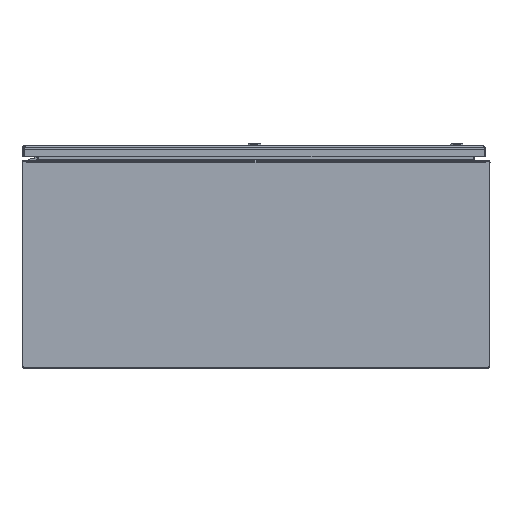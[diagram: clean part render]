
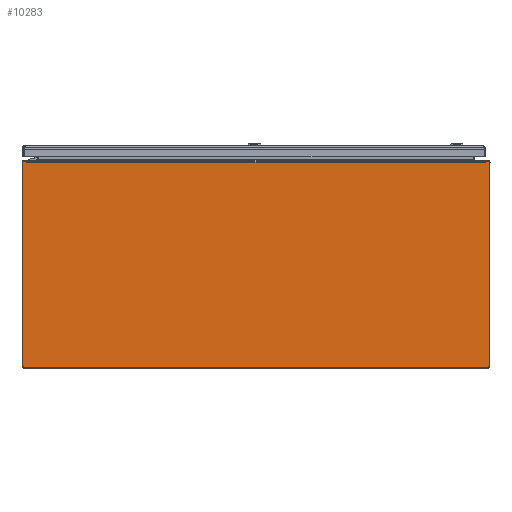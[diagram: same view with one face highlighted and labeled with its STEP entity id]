
A CAD part, front view. The second image highlights one B-rep face of the part: STEP entity #10283.
In plain terms, the highlighted planar face has unit normal (0, -1, 0).
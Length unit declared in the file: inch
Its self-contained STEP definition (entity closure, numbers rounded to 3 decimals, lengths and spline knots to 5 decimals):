
#9074=CARTESIAN_POINT('',(-17.915,0.,7.934));
#9075=DIRECTION('',(0.,-1.,0.));
#9076=DIRECTION('',(0.,0.,1.));
#9077=AXIS2_PLACEMENT_3D('',#9074,#9075,#9076);
#9082=DIRECTION('',(1.,0.,0.));
#9083=VECTOR('',#9082,0.2939);
#9084=CARTESIAN_POINT('',(-17.915,0.,7.994));
#9085=LINE('',#9084,#9083);
#9089=DIRECTION('',(1.,0.,0.));
#9090=VECTOR('',#9089,0.2939);
#9091=CARTESIAN_POINT('',(17.6211,0.,7.994));
#9092=LINE('',#9091,#9090);
#9096=CARTESIAN_POINT('',(17.915,0.,7.934));
#9097=DIRECTION('',(0.,-1.,0.));
#9098=DIRECTION('',(1.,0.,0.));
#9099=AXIS2_PLACEMENT_3D('',#9096,#9097,#9098);
#9104=DIRECTION('',(0.,0.,-1.));
#9105=VECTOR('',#9104,15.765);
#9106=CARTESIAN_POINT('',(17.975,0.,7.934));
#9107=LINE('',#9106,#9105);
#9111=CARTESIAN_POINT('',(17.85,0.,-7.831));
#9112=DIRECTION('',(0.,-1.,0.));
#9113=DIRECTION('',(0.,0.,-1.));
#9114=AXIS2_PLACEMENT_3D('',#9111,#9112,#9113);
#9119=DIRECTION('',(-1.,0.,0.));
#9120=VECTOR('',#9119,35.7);
#9121=CARTESIAN_POINT('',(17.85,0.,-7.956));
#9122=LINE('',#9121,#9120);
#9126=CARTESIAN_POINT('',(-17.85,0.,-7.831));
#9127=DIRECTION('',(0.,-1.,0.));
#9128=DIRECTION('',(-1.,0.,0.));
#9129=AXIS2_PLACEMENT_3D('',#9126,#9127,#9128);
#9134=DIRECTION('',(0.,0.,-1.));
#9135=VECTOR('',#9134,15.765);
#9136=CARTESIAN_POINT('',(-17.975,0.,7.934));
#9137=LINE('',#9136,#9135);
#9204=DIRECTION('',(0.,0.,-1.));
#9205=VECTOR('',#9204,0.125);
#9206=CARTESIAN_POINT('',(17.6211,0.,7.994));
#9207=LINE('',#9206,#9205);
#9792=DIRECTION('',(1.,0.,0.));
#9793=VECTOR('',#9792,35.2422);
#9794=CARTESIAN_POINT('',(-17.6211,0.,7.869));
#9795=LINE('',#9794,#9793);
#9829=DIRECTION('',(0.,0.,1.));
#9830=VECTOR('',#9829,0.125);
#9831=CARTESIAN_POINT('',(-17.6211,0.,7.869));
#9832=LINE('',#9831,#9830);
#10088=CARTESIAN_POINT('',(-17.6211,0.,7.869));
#10089=CARTESIAN_POINT('',(17.6211,0.,7.869));
#10090=VERTEX_POINT('',#10088);
#10091=VERTEX_POINT('',#10089);
#10172=CARTESIAN_POINT('',(-17.6211,0.,7.994));
#10174=VERTEX_POINT('',#10172);
#10176=CARTESIAN_POINT('',(17.6211,0.,7.994));
#10178=VERTEX_POINT('',#10176);
#10220=CARTESIAN_POINT('',(-17.915,0.,7.994));
#10221=CARTESIAN_POINT('',(-17.975,0.,7.934));
#10222=VERTEX_POINT('',#10220);
#10223=VERTEX_POINT('',#10221);
#10228=CARTESIAN_POINT('',(17.975,0.,7.934));
#10229=CARTESIAN_POINT('',(17.915,0.,7.994));
#10230=VERTEX_POINT('',#10228);
#10231=VERTEX_POINT('',#10229);
#10236=CARTESIAN_POINT('',(-17.975,0.,-7.831));
#10237=CARTESIAN_POINT('',(-17.85,0.,-7.956));
#10238=VERTEX_POINT('',#10236);
#10239=VERTEX_POINT('',#10237);
#10244=CARTESIAN_POINT('',(17.85,0.,-7.956));
#10245=CARTESIAN_POINT('',(17.975,0.,-7.831));
#10246=VERTEX_POINT('',#10244);
#10247=VERTEX_POINT('',#10245);
#10252=CARTESIAN_POINT('',(0.,0.,0.));
#10253=DIRECTION('',(0.,-1.,0.));
#10254=DIRECTION('',(-1.,0.,0.));
#10255=AXIS2_PLACEMENT_3D('',#10252,#10253,#10254);
#10256=PLANE('',#10255);
#10258=ORIENTED_EDGE('',*,*,#10257,.F.);
#10260=ORIENTED_EDGE('',*,*,#10259,.T.);
#10262=ORIENTED_EDGE('',*,*,#10261,.F.);
#10264=ORIENTED_EDGE('',*,*,#10263,.T.);
#10266=ORIENTED_EDGE('',*,*,#10265,.F.);
#10268=ORIENTED_EDGE('',*,*,#10267,.T.);
#10270=ORIENTED_EDGE('',*,*,#10269,.F.);
#10272=ORIENTED_EDGE('',*,*,#10271,.T.);
#10274=ORIENTED_EDGE('',*,*,#10273,.F.);
#10276=ORIENTED_EDGE('',*,*,#10275,.T.);
#10278=ORIENTED_EDGE('',*,*,#10277,.F.);
#10280=ORIENTED_EDGE('',*,*,#10279,.F.);
#10281=EDGE_LOOP('',(#10258,#10260,#10262,#10264,#10266,#10268,#10270,#10272,
#10274,#10276,#10278,#10280));
#10282=FACE_OUTER_BOUND('',#10281,.F.);
#9078=CIRCLE('',#9077,0.06);
#9100=CIRCLE('',#9099,0.06);
#9115=CIRCLE('',#9114,0.125);
#9130=CIRCLE('',#9129,0.125);
#10257=EDGE_CURVE('',#10222,#10223,#9078,.T.);
#10259=EDGE_CURVE('',#10222,#10174,#9085,.T.);
#10261=EDGE_CURVE('',#10090,#10174,#9832,.T.);
#10263=EDGE_CURVE('',#10090,#10091,#9795,.T.);
#10265=EDGE_CURVE('',#10178,#10091,#9207,.T.);
#10267=EDGE_CURVE('',#10178,#10231,#9092,.T.);
#10269=EDGE_CURVE('',#10230,#10231,#9100,.T.);
#10271=EDGE_CURVE('',#10230,#10247,#9107,.T.);
#10273=EDGE_CURVE('',#10246,#10247,#9115,.T.);
#10275=EDGE_CURVE('',#10246,#10239,#9122,.T.);
#10277=EDGE_CURVE('',#10238,#10239,#9130,.T.);
#10279=EDGE_CURVE('',#10223,#10238,#9137,.T.);
#10283=ADVANCED_FACE('',(#10282),#10256,.T.);
